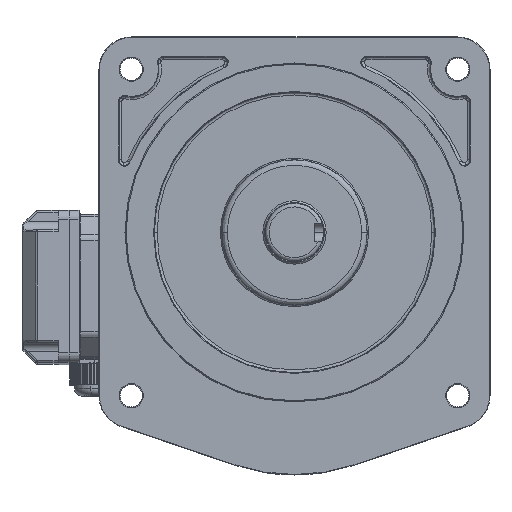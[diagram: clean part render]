
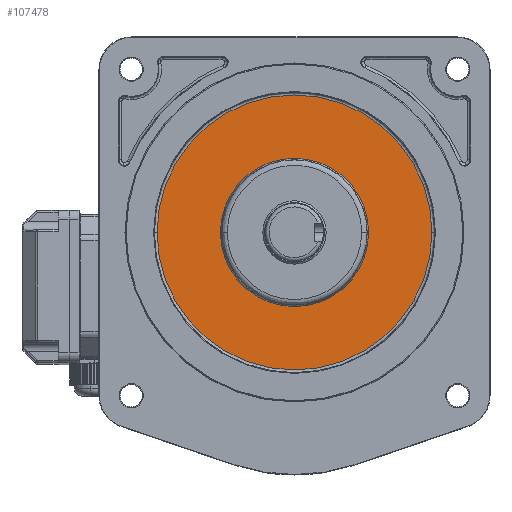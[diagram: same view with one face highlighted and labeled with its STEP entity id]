
A CAD part, top view. The second image highlights one B-rep face of the part: STEP entity #107478.
In plain terms, the highlighted planar face has unit normal (0, 0, 1).
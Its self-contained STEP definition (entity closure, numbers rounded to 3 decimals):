
#3101 = EDGE_CURVE ( 'NONE', #191056, #180743, #185416, .T. ) ;
#5355 = PLANE ( 'NONE',  #134879 ) ;
#8540 = CIRCLE ( 'NONE', #142447, 75.929 ) ;
#12855 = AXIS2_PLACEMENT_3D ( 'NONE', #152610, #225713, #61612 ) ;
#24144 = EDGE_CURVE ( 'NONE', #180743, #191056, #116171, .T. ) ;
#26195 = CARTESIAN_POINT ( 'NONE',  ( 0., 30., 114. ) ) ;
#26307 = EDGE_LOOP ( 'NONE', ( #210781, #52124 ) ) ;
#38789 = CARTESIAN_POINT ( 'NONE',  ( 75.929, 30., 114. ) ) ;
#52124 = ORIENTED_EDGE ( 'NONE', *, *, #88541, .T. ) ;
#53133 = CARTESIAN_POINT ( 'NONE',  ( 0., 30., 114. ) ) ;
#61612 = DIRECTION ( 'NONE',  ( -1., 0., 0. ) ) ;
#71336 = CARTESIAN_POINT ( 'NONE',  ( 0., 30., 114. ) ) ;
#78462 = CARTESIAN_POINT ( 'NONE',  ( 90., 120., 114. ) ) ;
#81348 = AXIS2_PLACEMENT_3D ( 'NONE', #53133, #126189, #199281 ) ;
#82136 = AXIS2_PLACEMENT_3D ( 'NONE', #26195, #99298, #172376 ) ;
#88541 = EDGE_CURVE ( 'NONE', #161318, #103935, #8540, .T. ) ;
#96437 = FACE_BOUND ( 'NONE', #211732, .T. ) ;
#99298 = DIRECTION ( 'NONE',  ( 0., 0., 1. ) ) ;
#103935 = VERTEX_POINT ( 'NONE', #38789 ) ;
#107478 = ADVANCED_FACE ( 'NONE', ( #96437, #169492 ), #5355, .T. ) ;
#107767 = EDGE_CURVE ( 'NONE', #103935, #161318, #184633, .T. ) ;
#116171 = CIRCLE ( 'NONE', #12855, 25.464 ) ;
#126189 = DIRECTION ( 'NONE',  ( 0., 0., 1. ) ) ;
#126416 = DIRECTION ( 'NONE',  ( 0., 0., 1. ) ) ;
#130972 = ORIENTED_EDGE ( 'NONE', *, *, #24144, .F. ) ;
#134879 = AXIS2_PLACEMENT_3D ( 'NONE', #78462, #151509, #224612 ) ;
#142447 = AXIS2_PLACEMENT_3D ( 'NONE', #71336, #126416, #199504 ) ;
#151509 = DIRECTION ( 'NONE',  ( 0., 0., 1. ) ) ;
#152610 = CARTESIAN_POINT ( 'NONE',  ( 0., 30., 114. ) ) ;
#156536 = ORIENTED_EDGE ( 'NONE', *, *, #3101, .F. ) ;
#161318 = VERTEX_POINT ( 'NONE', #182958 ) ;
#164100 = CARTESIAN_POINT ( 'NONE',  ( 25.464, 30., 114. ) ) ;
#169492 = FACE_OUTER_BOUND ( 'NONE', #26307, .T. ) ;
#172376 = DIRECTION ( 'NONE',  ( -1., 0., 0. ) ) ;
#180743 = VERTEX_POINT ( 'NONE', #189395 ) ;
#182958 = CARTESIAN_POINT ( 'NONE',  ( -75.929, 30., 114. ) ) ;
#184633 = CIRCLE ( 'NONE', #81348, 75.929 ) ;
#185416 = CIRCLE ( 'NONE', #82136, 25.464 ) ;
#189395 = CARTESIAN_POINT ( 'NONE',  ( -25.464, 30., 114. ) ) ;
#191056 = VERTEX_POINT ( 'NONE', #164100 ) ;
#199281 = DIRECTION ( 'NONE',  ( 1., 0., 0. ) ) ;
#199504 = DIRECTION ( 'NONE',  ( 1., 0., 0. ) ) ;
#210781 = ORIENTED_EDGE ( 'NONE', *, *, #107767, .T. ) ;
#211732 = EDGE_LOOP ( 'NONE', ( #130972, #156536 ) ) ;
#224612 = DIRECTION ( 'NONE',  ( 1., 0., 0. ) ) ;
#225713 = DIRECTION ( 'NONE',  ( 0., 0., 1. ) ) ;
